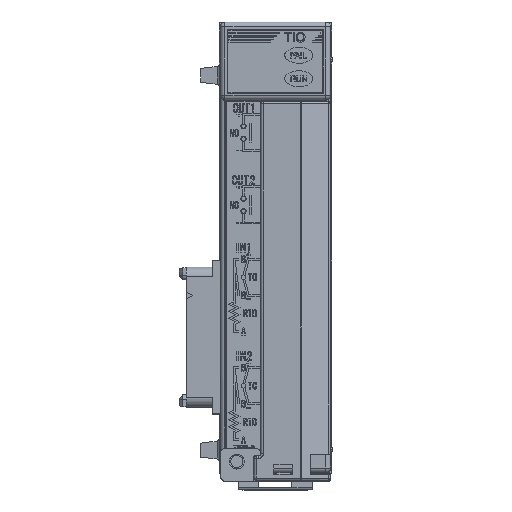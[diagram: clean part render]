
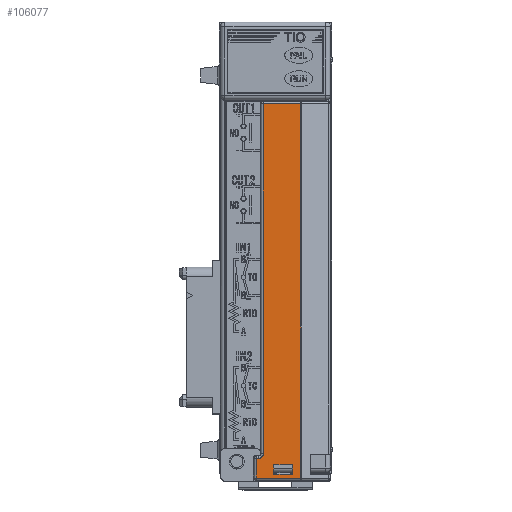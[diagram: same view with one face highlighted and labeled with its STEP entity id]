
A CAD part, top view. The second image highlights one B-rep face of the part: STEP entity #106077.
In plain terms, the highlighted planar face has unit normal (0, 0, 1).
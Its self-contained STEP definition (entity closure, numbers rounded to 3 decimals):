
#3158 = DIRECTION ( 'NONE',  ( 1., 0., 0. ) ) ;
#4684 = EDGE_LOOP ( 'NONE', ( #84721, #64580, #25958, #122905 ) ) ;
#4893 = EDGE_LOOP ( 'NONE', ( #141602, #57248, #166207, #133125, #155415, #162536, #156447, #181432 ) ) ;
#9823 = VERTEX_POINT ( 'NONE', #112389 ) ;
#11587 = CARTESIAN_POINT ( 'NONE',  ( 0.67, -49.15, 102.1 ) ) ;
#12352 = CARTESIAN_POINT ( 'NONE',  ( -4.064, -44.922, 102.1 ) ) ;
#12638 = LINE ( 'NONE', #71351, #121191 ) ;
#13020 = CARTESIAN_POINT ( 'NONE',  ( -2.58, -43.922, 102.1 ) ) ;
#13565 = CARTESIAN_POINT ( 'NONE',  ( -3.449, -44.922, 102.1 ) ) ;
#14334 = LINE ( 'NONE', #131445, #136763 ) ;
#14919 = CARTESIAN_POINT ( 'NONE',  ( -2.58, -44.053, 102.1 ) ) ;
#16096 = CARTESIAN_POINT ( 'NONE',  ( -3.076, -44.796, 102.1 ) ) ;
#18339 = CARTESIAN_POINT ( 'NONE',  ( 0.67, -46.3, 102.1 ) ) ;
#18771 = VERTEX_POINT ( 'NONE', #147113 ) ;
#20215 = LINE ( 'NONE', #65591, #165520 ) ;
#22251 = VECTOR ( 'NONE', #75425, 1000. ) ;
#23549 = VECTOR ( 'NONE', #44780, 1000. ) ;
#25958 = ORIENTED_EDGE ( 'NONE', *, *, #59200, .F. ) ;
#26278 = EDGE_CURVE ( 'NONE', #18771, #61947, #135952, .T. ) ;
#28319 = EDGE_CURVE ( 'NONE', #61947, #141776, #55676, .T. ) ;
#28900 = EDGE_CURVE ( 'NONE', #63792, #132530, #116715, .T. ) ;
#29478 = FACE_BOUND ( 'NONE', #4684, .T. ) ;
#30741 = DIRECTION ( 'NONE',  ( 0., -1., 0. ) ) ;
#32596 = PLANE ( 'NONE',  #88934 ) ;
#43885 = CARTESIAN_POINT ( 'NONE',  ( -2.78, -44.537, 102.1 ) ) ;
#44780 = DIRECTION ( 'NONE',  ( 0., -1., 0. ) ) ;
#46646 = VECTOR ( 'NONE', #164469, 1000. ) ;
#49443 = CARTESIAN_POINT ( 'NONE',  ( 3.769, -48.359, 102.1 ) ) ;
#52748 = VECTOR ( 'NONE', #3158, 1000. ) ;
#55676 = B_SPLINE_CURVE_WITH_KNOTS ( 'NONE', 3,
 ( #117527, #43885, #102053, #73612, #14919, #13020 ),
 .UNSPECIFIED., .F., .F.,
 ( 4, 2, 4 ),
 ( 0., 0.5, 1. ),
 .UNSPECIFIED. ) ;
#57248 = ORIENTED_EDGE ( 'NONE', *, *, #28319, .F. ) ;
#59200 = EDGE_CURVE ( 'NONE', #110755, #109262, #132142, .T. ) ;
#60249 = VERTEX_POINT ( 'NONE', #145711 ) ;
#61567 = DIRECTION ( 'NONE',  ( -1., 0., 0. ) ) ;
#61947 = VERTEX_POINT ( 'NONE', #149391 ) ;
#62082 = LINE ( 'NONE', #49443, #52748 ) ;
#63565 = CARTESIAN_POINT ( 'NONE',  ( 5.405, -49.15, 102.1 ) ) ;
#63792 = VERTEX_POINT ( 'NONE', #12352 ) ;
#64580 = ORIENTED_EDGE ( 'NONE', *, *, #101970, .F. ) ;
#65591 = CARTESIAN_POINT ( 'NONE',  ( 0.67, 30.573, 102.1 ) ) ;
#68758 = CARTESIAN_POINT ( 'NONE',  ( 5.405, 30.573, 102.1 ) ) ;
#70781 = LINE ( 'NONE', #11587, #22251 ) ;
#71351 = CARTESIAN_POINT ( 'NONE',  ( 3.65, -9.289, 102.1 ) ) ;
#73612 = CARTESIAN_POINT ( 'NONE',  ( -2.606, -44.184, 102.1 ) ) ;
#74550 = EDGE_CURVE ( 'NONE', #135055, #60249, #12638, .T. ) ;
#75425 = DIRECTION ( 'NONE',  ( 1., 0., 0. ) ) ;
#82463 = EDGE_CURVE ( 'NONE', #63792, #18771, #14334, .T. ) ;
#84721 = ORIENTED_EDGE ( 'NONE', *, *, #74550, .F. ) ;
#87085 = CARTESIAN_POINT ( 'NONE',  ( -2.873, -44.629, 102.1 ) ) ;
#88367 = CARTESIAN_POINT ( 'NONE',  ( -3.318, -44.896, 102.1 ) ) ;
#88644 = EDGE_CURVE ( 'NONE', #141776, #112428, #150246, .T. ) ;
#88934 = AXIS2_PLACEMENT_3D ( 'NONE', #63565, #179764, #166772 ) ;
#95180 = LINE ( 'NONE', #105224, #46646 ) ;
#99794 = DIRECTION ( 'NONE',  ( 1., 0., 0. ) ) ;
#101970 = EDGE_CURVE ( 'NONE', #109262, #135055, #62082, .T. ) ;
#102053 = CARTESIAN_POINT ( 'NONE',  ( -2.706, -44.426, 102.1 ) ) ;
#103404 = EDGE_CURVE ( 'NONE', #132530, #9823, #70781, .T. ) ;
#104506 = CARTESIAN_POINT ( 'NONE',  ( -2.965, -44.722, 102.1 ) ) ;
#105224 = CARTESIAN_POINT ( 'NONE',  ( 5.405, -9.289, 102.1 ) ) ;
#106077 = ADVANCED_FACE ( 'NONE', ( #29478, #114713 ), #32596, .F. ) ;
#109262 = VERTEX_POINT ( 'NONE', #137573 ) ;
#109851 = EDGE_CURVE ( 'NONE', #60249, #110755, #148848, .T. ) ;
#110755 = VERTEX_POINT ( 'NONE', #160500 ) ;
#112389 = CARTESIAN_POINT ( 'NONE',  ( 5.405, -49.15, 102.1 ) ) ;
#112428 = VERTEX_POINT ( 'NONE', #163899 ) ;
#114713 = FACE_OUTER_BOUND ( 'NONE', #4893, .T. ) ;
#116715 = LINE ( 'NONE', #119237, #144284 ) ;
#117527 = CARTESIAN_POINT ( 'NONE',  ( -2.873, -44.629, 102.1 ) ) ;
#118078 = CARTESIAN_POINT ( 'NONE',  ( -3.58, -44.922, 102.1 ) ) ;
#119087 = DIRECTION ( 'NONE',  ( 0., 1., 0. ) ) ;
#119237 = CARTESIAN_POINT ( 'NONE',  ( -4.064, -47.036, 102.1 ) ) ;
#121191 = VECTOR ( 'NONE', #119087, 1000. ) ;
#121906 = EDGE_CURVE ( 'NONE', #172223, #9823, #95180, .T. ) ;
#122905 = ORIENTED_EDGE ( 'NONE', *, *, #109851, .F. ) ;
#123556 = CARTESIAN_POINT ( 'NONE',  ( -4.064, -49.15, 102.1 ) ) ;
#128585 = DIRECTION ( 'NONE',  ( 0., 1., 0. ) ) ;
#131445 = CARTESIAN_POINT ( 'NONE',  ( 0.67, -44.922, 102.1 ) ) ;
#132142 = LINE ( 'NONE', #176429, #23549 ) ;
#132530 = VERTEX_POINT ( 'NONE', #123556 ) ;
#133003 = VECTOR ( 'NONE', #61567, 1000. ) ;
#133125 = ORIENTED_EDGE ( 'NONE', *, *, #82463, .F. ) ;
#135055 = VERTEX_POINT ( 'NONE', #154908 ) ;
#135678 = CARTESIAN_POINT ( 'NONE',  ( -2.58, -43.922, 102.1 ) ) ;
#135952 = B_SPLINE_CURVE_WITH_KNOTS ( 'NONE', 3,
 ( #118078, #13565, #88367, #16096, #104506, #87085 ),
 .UNSPECIFIED., .F., .F.,
 ( 4, 2, 4 ),
 ( 0., 0.5, 1. ),
 .UNSPECIFIED. ) ;
#136763 = VECTOR ( 'NONE', #99794, 1000. ) ;
#137573 = CARTESIAN_POINT ( 'NONE',  ( -0.35, -48.359, 102.1 ) ) ;
#141602 = ORIENTED_EDGE ( 'NONE', *, *, #88644, .F. ) ;
#141776 = VERTEX_POINT ( 'NONE', #135678 ) ;
#144284 = VECTOR ( 'NONE', #30741, 1000. ) ;
#145711 = CARTESIAN_POINT ( 'NONE',  ( 3.65, -46.3, 102.1 ) ) ;
#147113 = CARTESIAN_POINT ( 'NONE',  ( -3.58, -44.922, 102.1 ) ) ;
#148848 = LINE ( 'NONE', #18339, #133003 ) ;
#149391 = CARTESIAN_POINT ( 'NONE',  ( -2.873, -44.629, 102.1 ) ) ;
#150246 = LINE ( 'NONE', #187230, #173329 ) ;
#154021 = DIRECTION ( 'NONE',  ( 1., 0., 0. ) ) ;
#154908 = CARTESIAN_POINT ( 'NONE',  ( 3.65, -48.359, 102.1 ) ) ;
#155415 = ORIENTED_EDGE ( 'NONE', *, *, #28900, .T. ) ;
#156447 = ORIENTED_EDGE ( 'NONE', *, *, #121906, .F. ) ;
#158154 = EDGE_CURVE ( 'NONE', #112428, #172223, #20215, .T. ) ;
#160500 = CARTESIAN_POINT ( 'NONE',  ( -0.35, -46.3, 102.1 ) ) ;
#162536 = ORIENTED_EDGE ( 'NONE', *, *, #103404, .T. ) ;
#163899 = CARTESIAN_POINT ( 'NONE',  ( -2.58, 30.573, 102.1 ) ) ;
#164469 = DIRECTION ( 'NONE',  ( 0., -1., 0. ) ) ;
#165520 = VECTOR ( 'NONE', #154021, 1000. ) ;
#166207 = ORIENTED_EDGE ( 'NONE', *, *, #26278, .F. ) ;
#166772 = DIRECTION ( 'NONE',  ( -1., 0., 0. ) ) ;
#172223 = VERTEX_POINT ( 'NONE', #68758 ) ;
#173329 = VECTOR ( 'NONE', #128585, 1000. ) ;
#176429 = CARTESIAN_POINT ( 'NONE',  ( -0.35, -9.289, 102.1 ) ) ;
#179764 = DIRECTION ( 'NONE',  ( 0., 0., -1. ) ) ;
#181432 = ORIENTED_EDGE ( 'NONE', *, *, #158154, .F. ) ;
#187230 = CARTESIAN_POINT ( 'NONE',  ( -2.58, -9.289, 102.1 ) ) ;
